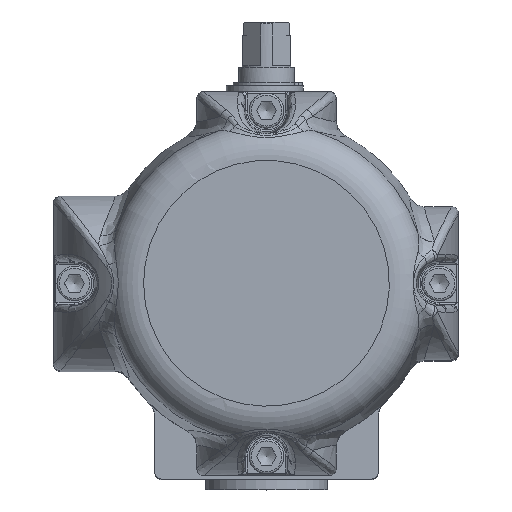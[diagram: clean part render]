
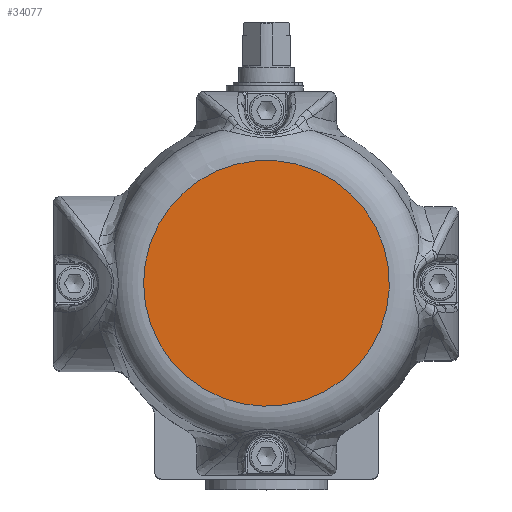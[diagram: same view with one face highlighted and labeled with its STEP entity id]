
A CAD part, top view. The second image highlights one B-rep face of the part: STEP entity #34077.
In plain terms, the highlighted planar face has unit normal (0, 0, 1).
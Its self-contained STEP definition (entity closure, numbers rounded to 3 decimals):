
#25166=CARTESIAN_POINT('',(-35.2,0.,100.15));
#25167=VERTEX_POINT('',#25166);
#25168=CARTESIAN_POINT('',(0.,0.,100.15));
#25169=DIRECTION('',(0.0,0.0,-1.0));
#25170=DIRECTION('',(-1.0,0.0,0.0));
#25171=AXIS2_PLACEMENT_3D('',#25168,#25169,#25170);
#25172=CIRCLE('',#25171,35.2);
#25173=EDGE_CURVE('',#25167,#25167,#25172,.T.);
#34069=CARTESIAN_POINT('',(-17.6,0.,100.15));
#34070=DIRECTION('',(0.0,0.0,1.0));
#34071=DIRECTION('',(0.0,-1.0,0.0));
#34072=AXIS2_PLACEMENT_3D('',#34069,#34070,#34071);
#34073=PLANE('',#34072);
#34074=ORIENTED_EDGE('',*,*,#25173,.F.);
#34075=EDGE_LOOP('',(#34074));
#34076=FACE_OUTER_BOUND('',#34075,.T.);
#34077=ADVANCED_FACE('',(#34076),#34073,.T.);
